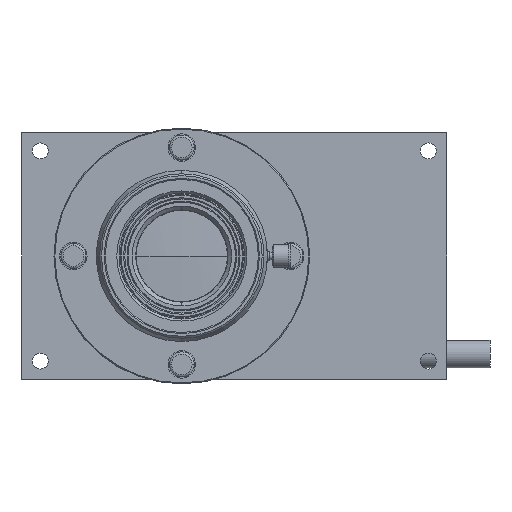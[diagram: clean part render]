
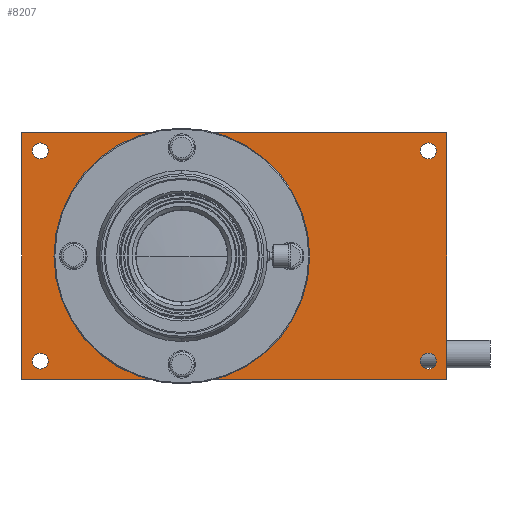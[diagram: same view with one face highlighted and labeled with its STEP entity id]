
A CAD part, left-side view. The second image highlights one B-rep face of the part: STEP entity #8207.
In plain terms, the highlighted planar face has unit normal (-1, 0, 0).
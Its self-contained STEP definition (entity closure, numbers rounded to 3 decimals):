
#484 = FACE_OUTER_BOUND ( 'NONE', #2049, .T. ) ;
#560 = DIRECTION ( 'NONE',  ( 0., 0., -1. ) ) ;
#670 = CIRCLE ( 'NONE', #5638, 1.75 ) ;
#789 = CARTESIAN_POINT ( 'NONE',  ( -141.219, 0., 18.6 ) ) ;
#793 = EDGE_CURVE ( 'NONE', #1906, #3602, #10526, .T. ) ;
#864 = VERTEX_POINT ( 'NONE', #1298 ) ;
#867 = FACE_BOUND ( 'NONE', #1336, .T. ) ;
#958 = CARTESIAN_POINT ( 'NONE',  ( -141.219, 35., 27. ) ) ;
#1024 = VERTEX_POINT ( 'NONE', #7972 ) ;
#1053 = DIRECTION ( 'NONE',  ( 1., 0., 0. ) ) ;
#1119 = CARTESIAN_POINT ( 'NONE',  ( -141.219, 31., -23. ) ) ;
#1122 = CARTESIAN_POINT ( 'NONE',  ( -141.219, -54., 23. ) ) ;
#1180 = EDGE_CURVE ( 'NONE', #9436, #5157, #9214, .T. ) ;
#1211 = DIRECTION ( 'NONE',  ( 0., 0., -1. ) ) ;
#1298 = CARTESIAN_POINT ( 'NONE',  ( -141.219, -54., 24.75 ) ) ;
#1336 = EDGE_LOOP ( 'NONE', ( #2819, #5953 ) ) ;
#1419 = CARTESIAN_POINT ( 'NONE',  ( -141.219, 0., 0. ) ) ;
#1425 = LINE ( 'NONE', #4951, #4785 ) ;
#1454 = CARTESIAN_POINT ( 'NONE',  ( -141.219, -54., -21.25 ) ) ;
#1525 = ORIENTED_EDGE ( 'NONE', *, *, #5273, .T. ) ;
#1758 = VERTEX_POINT ( 'NONE', #789 ) ;
#1785 = DIRECTION ( 'NONE',  ( 1., 0., 0. ) ) ;
#1787 = EDGE_LOOP ( 'NONE', ( #7220, #1525 ) ) ;
#1901 = EDGE_CURVE ( 'NONE', #2044, #864, #2116, .T. ) ;
#1906 = VERTEX_POINT ( 'NONE', #6928 ) ;
#2008 = ORIENTED_EDGE ( 'NONE', *, *, #3594, .T. ) ;
#2044 = VERTEX_POINT ( 'NONE', #3140 ) ;
#2049 = EDGE_LOOP ( 'NONE', ( #3668, #3719, #2755, #9041 ) ) ;
#2103 = CARTESIAN_POINT ( 'NONE',  ( -141.219, 35., -27. ) ) ;
#2104 = ORIENTED_EDGE ( 'NONE', *, *, #1180, .T. ) ;
#2116 = CIRCLE ( 'NONE', #7217, 1.75 ) ;
#2412 = CIRCLE ( 'NONE', #5189, 1.75 ) ;
#2449 = DIRECTION ( 'NONE',  ( 1., 0., 0. ) ) ;
#2755 = ORIENTED_EDGE ( 'NONE', *, *, #4464, .F. ) ;
#2819 = ORIENTED_EDGE ( 'NONE', *, *, #793, .T. ) ;
#2848 = DIRECTION ( 'NONE',  ( 1., 0., 0. ) ) ;
#2943 = EDGE_CURVE ( 'NONE', #3602, #1906, #9440, .T. ) ;
#2959 = AXIS2_PLACEMENT_3D ( 'NONE', #7175, #4612, #6277 ) ;
#3032 = CARTESIAN_POINT ( 'NONE',  ( -141.219, 31., -21.25 ) ) ;
#3054 = AXIS2_PLACEMENT_3D ( 'NONE', #7797, #2848, #9474 ) ;
#3140 = CARTESIAN_POINT ( 'NONE',  ( -141.219, -54., 21.25 ) ) ;
#3478 = DIRECTION ( 'NONE',  ( 0., -1., 0. ) ) ;
#3594 = EDGE_CURVE ( 'NONE', #864, #2044, #670, .T. ) ;
#3602 = VERTEX_POINT ( 'NONE', #9365 ) ;
#3668 = ORIENTED_EDGE ( 'NONE', *, *, #9680, .F. ) ;
#3702 = EDGE_LOOP ( 'NONE', ( #3893, #2008 ) ) ;
#3719 = ORIENTED_EDGE ( 'NONE', *, *, #8174, .F. ) ;
#3785 = LINE ( 'NONE', #958, #6004 ) ;
#3819 = EDGE_CURVE ( 'NONE', #1024, #6606, #6730, .T. ) ;
#3820 = AXIS2_PLACEMENT_3D ( 'NONE', #8667, #8634, #1211 ) ;
#3859 = VERTEX_POINT ( 'NONE', #6017 ) ;
#3893 = ORIENTED_EDGE ( 'NONE', *, *, #1901, .T. ) ;
#3938 = DIRECTION ( 'NONE',  ( 0., 0., -1. ) ) ;
#4014 = AXIS2_PLACEMENT_3D ( 'NONE', #5718, #2449, #8219 ) ;
#4073 = EDGE_CURVE ( 'NONE', #5157, #9436, #5567, .T. ) ;
#4246 = CARTESIAN_POINT ( 'NONE',  ( -141.219, 31., -24.75 ) ) ;
#4264 = CARTESIAN_POINT ( 'NONE',  ( -141.219, 31., 23. ) ) ;
#4464 = EDGE_CURVE ( 'NONE', #6606, #7614, #1425, .T. ) ;
#4568 = CIRCLE ( 'NONE', #7680, 18.6 ) ;
#4612 = DIRECTION ( 'NONE',  ( 1., 0., 0. ) ) ;
#4681 = CARTESIAN_POINT ( 'NONE',  ( -141.219, 35., 27. ) ) ;
#4721 = PLANE ( 'NONE',  #2959 ) ;
#4785 = VECTOR ( 'NONE', #5270, 1000. ) ;
#4951 = CARTESIAN_POINT ( 'NONE',  ( -141.219, 35., -27. ) ) ;
#4996 = DIRECTION ( 'NONE',  ( 0., 0., -1. ) ) ;
#4999 = LINE ( 'NONE', #4681, #5917 ) ;
#5062 = AXIS2_PLACEMENT_3D ( 'NONE', #8931, #8093, #6516 ) ;
#5157 = VERTEX_POINT ( 'NONE', #9559 ) ;
#5189 = AXIS2_PLACEMENT_3D ( 'NONE', #1119, #1053, #6860 ) ;
#5270 = DIRECTION ( 'NONE',  ( 0., 1., 0. ) ) ;
#5273 = EDGE_CURVE ( 'NONE', #8154, #1758, #5689, .T. ) ;
#5305 = DIRECTION ( 'NONE',  ( 1., 0., 0. ) ) ;
#5394 = FACE_BOUND ( 'NONE', #3702, .T. ) ;
#5449 = DIRECTION ( 'NONE',  ( 0., 0., 1. ) ) ;
#5481 = CARTESIAN_POINT ( 'NONE',  ( -141.219, 0., -18.6 ) ) ;
#5512 = DIRECTION ( 'NONE',  ( 1., 0., 0. ) ) ;
#5519 = ORIENTED_EDGE ( 'NONE', *, *, #7937, .T. ) ;
#5567 = CIRCLE ( 'NONE', #3054, 1.75 ) ;
#5638 = AXIS2_PLACEMENT_3D ( 'NONE', #1122, #7721, #3938 ) ;
#5689 = CIRCLE ( 'NONE', #8928, 18.6 ) ;
#5718 = CARTESIAN_POINT ( 'NONE',  ( -141.219, -54., -23. ) ) ;
#5917 = VECTOR ( 'NONE', #5449, 1000. ) ;
#5953 = ORIENTED_EDGE ( 'NONE', *, *, #2943, .T. ) ;
#6004 = VECTOR ( 'NONE', #3478, 1000. ) ;
#6017 = CARTESIAN_POINT ( 'NONE',  ( -141.219, 35., 27. ) ) ;
#6277 = DIRECTION ( 'NONE',  ( 0., 0., -1. ) ) ;
#6325 = CARTESIAN_POINT ( 'NONE',  ( -141.219, -58., -27. ) ) ;
#6516 = DIRECTION ( 'NONE',  ( 0., 0., -1. ) ) ;
#6606 = VERTEX_POINT ( 'NONE', #6325 ) ;
#6730 = LINE ( 'NONE', #8333, #10584 ) ;
#6734 = CARTESIAN_POINT ( 'NONE',  ( -141.219, 0., 0. ) ) ;
#6860 = DIRECTION ( 'NONE',  ( 0., 0., -1. ) ) ;
#6928 = CARTESIAN_POINT ( 'NONE',  ( -141.219, 31., 21.25 ) ) ;
#7175 = CARTESIAN_POINT ( 'NONE',  ( -141.219, 0., 0. ) ) ;
#7217 = AXIS2_PLACEMENT_3D ( 'NONE', #7752, #5305, #8574 ) ;
#7220 = ORIENTED_EDGE ( 'NONE', *, *, #9703, .T. ) ;
#7335 = DIRECTION ( 'NONE',  ( 1., 0., 0. ) ) ;
#7559 = DIRECTION ( 'NONE',  ( 0., 0., -1. ) ) ;
#7614 = VERTEX_POINT ( 'NONE', #2103 ) ;
#7657 = ORIENTED_EDGE ( 'NONE', *, *, #4073, .T. ) ;
#7680 = AXIS2_PLACEMENT_3D ( 'NONE', #6734, #1785, #7559 ) ;
#7721 = DIRECTION ( 'NONE',  ( 1., 0., 0. ) ) ;
#7751 = AXIS2_PLACEMENT_3D ( 'NONE', #4264, #7335, #4996 ) ;
#7752 = CARTESIAN_POINT ( 'NONE',  ( -141.219, -54., 23. ) ) ;
#7797 = CARTESIAN_POINT ( 'NONE',  ( -141.219, -54., -23. ) ) ;
#7937 = EDGE_CURVE ( 'NONE', #8698, #8408, #2412, .T. ) ;
#7972 = CARTESIAN_POINT ( 'NONE',  ( -141.219, -58., 27. ) ) ;
#8093 = DIRECTION ( 'NONE',  ( 1., 0., 0. ) ) ;
#8154 = VERTEX_POINT ( 'NONE', #5481 ) ;
#8174 = EDGE_CURVE ( 'NONE', #7614, #3859, #4999, .T. ) ;
#8207 = ADVANCED_FACE ( 'NONE', ( #867, #9238, #8965, #5394, #484, #10021 ), #4721, .F. ) ;
#8219 = DIRECTION ( 'NONE',  ( 0., 0., -1. ) ) ;
#8333 = CARTESIAN_POINT ( 'NONE',  ( -141.219, -58., 27. ) ) ;
#8408 = VERTEX_POINT ( 'NONE', #4246 ) ;
#8574 = DIRECTION ( 'NONE',  ( 0., 0., -1. ) ) ;
#8634 = DIRECTION ( 'NONE',  ( 1., 0., 0. ) ) ;
#8667 = CARTESIAN_POINT ( 'NONE',  ( -141.219, 31., 23. ) ) ;
#8698 = VERTEX_POINT ( 'NONE', #3032 ) ;
#8928 = AXIS2_PLACEMENT_3D ( 'NONE', #1419, #5512, #560 ) ;
#8931 = CARTESIAN_POINT ( 'NONE',  ( -141.219, 31., -23. ) ) ;
#8965 = FACE_BOUND ( 'NONE', #10018, .T. ) ;
#9041 = ORIENTED_EDGE ( 'NONE', *, *, #3819, .F. ) ;
#9214 = CIRCLE ( 'NONE', #4014, 1.75 ) ;
#9238 = FACE_BOUND ( 'NONE', #10244, .T. ) ;
#9365 = CARTESIAN_POINT ( 'NONE',  ( -141.219, 31., 24.75 ) ) ;
#9436 = VERTEX_POINT ( 'NONE', #1454 ) ;
#9437 = EDGE_CURVE ( 'NONE', #8408, #8698, #9719, .T. ) ;
#9440 = CIRCLE ( 'NONE', #3820, 1.75 ) ;
#9474 = DIRECTION ( 'NONE',  ( 0., 0., -1. ) ) ;
#9559 = CARTESIAN_POINT ( 'NONE',  ( -141.219, -54., -24.75 ) ) ;
#9624 = ORIENTED_EDGE ( 'NONE', *, *, #9437, .T. ) ;
#9680 = EDGE_CURVE ( 'NONE', #3859, #1024, #3785, .T. ) ;
#9703 = EDGE_CURVE ( 'NONE', #1758, #8154, #4568, .T. ) ;
#9719 = CIRCLE ( 'NONE', #5062, 1.75 ) ;
#10018 = EDGE_LOOP ( 'NONE', ( #7657, #2104 ) ) ;
#10021 = FACE_BOUND ( 'NONE', #1787, .T. ) ;
#10244 = EDGE_LOOP ( 'NONE', ( #9624, #5519 ) ) ;
#10526 = CIRCLE ( 'NONE', #7751, 1.75 ) ;
#10584 = VECTOR ( 'NONE', #10647, 1000. ) ;
#10647 = DIRECTION ( 'NONE',  ( 0., 0., -1. ) ) ;
